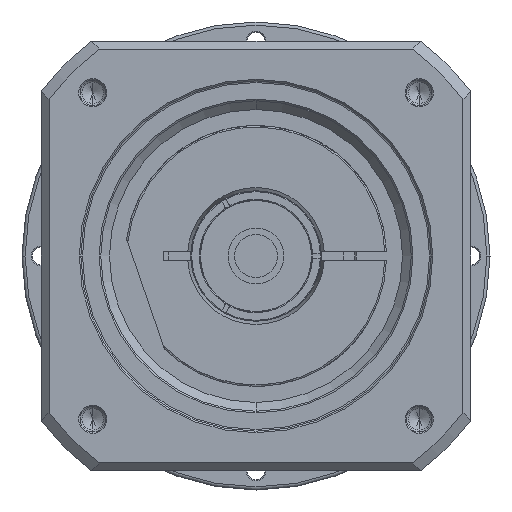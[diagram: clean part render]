
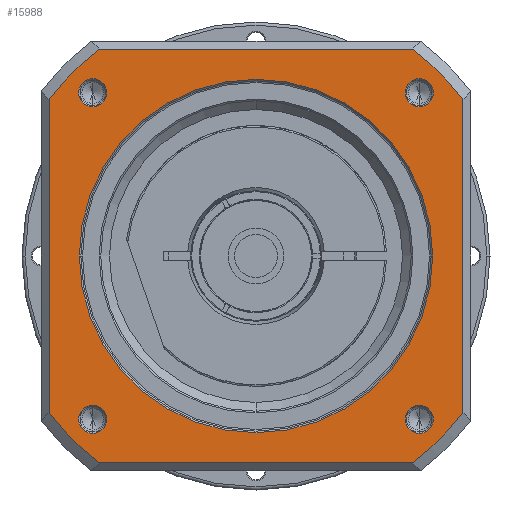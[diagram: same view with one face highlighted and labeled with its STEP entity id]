
A CAD part, left-side view. The second image highlights one B-rep face of the part: STEP entity #15988.
In plain terms, the highlighted planar face has unit normal (-1, 0, 0) as drawn and (0, 0, 1) by its records, which use the part's own axes.
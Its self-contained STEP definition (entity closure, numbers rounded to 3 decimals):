
#14728=CARTESIAN_POINT('',(0.,0.,56.));
#14729=DIRECTION('',(0.,0.,-1.));
#14730=DIRECTION('',(0.,-1.,0.));
#14731=AXIS2_PLACEMENT_3D('',#14728,#14729,#14730);
#14733=CARTESIAN_POINT('',(0.,0.,
56.));
#14734=DIRECTION('',(0.,0.,-1.));
#14735=DIRECTION('',(0.,1.,0.));
#14736=AXIS2_PLACEMENT_3D('',#14733,#14734,#14735);
#14738=DIRECTION('',(1.,0.,0.));
#14739=VECTOR('',#14738,98.331);
#14740=CARTESIAN_POINT('',(-49.166,65.,56.));
#14741=LINE('',#14740,#14739);
#14742=CARTESIAN_POINT('',(0.,0.,56.));
#14743=DIRECTION('',(0.,0.,1.));
#14744=DIRECTION('',(0.798,0.603,0.));
#14745=AXIS2_PLACEMENT_3D('',#14742,#14743,#14744);
#14747=DIRECTION('',(0.,1.,0.));
#14748=VECTOR('',#14747,98.331);
#14749=CARTESIAN_POINT('',(65.,-49.166,56.));
#14750=LINE('',#14749,#14748);
#14751=DIRECTION('',(1.,0.,0.));
#14752=VECTOR('',#14751,98.331);
#14753=CARTESIAN_POINT('',(-49.166,-65.,56.));
#14754=LINE('',#14753,#14752);
#14755=CARTESIAN_POINT('',(0.,0.,56.));
#14756=DIRECTION('',(0.,0.,1.));
#14757=DIRECTION('',(-0.798,-0.603,0.));
#14758=AXIS2_PLACEMENT_3D('',#14755,#14756,#14757);
#14760=DIRECTION('',(0.,1.,0.));
#14761=VECTOR('',#14760,98.331);
#14762=CARTESIAN_POINT('',(-65.,-49.166,56.));
#14763=LINE('',#14762,#14761);
#14778=CARTESIAN_POINT('',(0.,0.,56.));
#14779=DIRECTION('',(0.,0.,1.));
#14780=DIRECTION('',(-0.603,0.798,0.));
#14781=AXIS2_PLACEMENT_3D('',#14778,#14779,#14780);
#14788=CARTESIAN_POINT('',(0.,0.,56.));
#14789=DIRECTION('',(0.,0.,1.));
#14790=DIRECTION('',(0.603,-0.798,0.));
#14791=AXIS2_PLACEMENT_3D('',#14788,#14789,#14790);
#14805=CARTESIAN_POINT('',(-49.166,65.,56.));
#14897=CARTESIAN_POINT('',(65.,-49.166,56.));
#14925=CARTESIAN_POINT('',(49.166,-65.,56.));
#14965=CARTESIAN_POINT('',(-65.,49.166,56.));
#14974=CARTESIAN_POINT('',(-51.265,51.265,56.));
#14975=DIRECTION('',(0.,0.,1.));
#14976=DIRECTION('',(-1.,0.,0.));
#14977=AXIS2_PLACEMENT_3D('',#14974,#14975,#14976);
#14992=CARTESIAN_POINT('',(-51.265,51.265,56.));
#14993=DIRECTION('',(0.,0.,1.));
#14994=DIRECTION('',(1.,0.,0.));
#14995=AXIS2_PLACEMENT_3D('',#14992,#14993,#14994);
#15028=CARTESIAN_POINT('',(51.265,51.265,56.));
#15029=DIRECTION('',(0.,0.,1.));
#15030=DIRECTION('',(-1.,0.,0.));
#15031=AXIS2_PLACEMENT_3D('',#15028,#15029,#15030);
#15046=CARTESIAN_POINT('',(51.265,51.265,56.));
#15047=DIRECTION('',(0.,0.,1.));
#15048=DIRECTION('',(1.,0.,0.));
#15049=AXIS2_PLACEMENT_3D('',#15046,#15047,#15048);
#15082=CARTESIAN_POINT('',(51.265,-51.265,56.));
#15083=DIRECTION('',(0.,0.,1.));
#15084=DIRECTION('',(-1.,0.,0.));
#15085=AXIS2_PLACEMENT_3D('',#15082,#15083,#15084);
#15100=CARTESIAN_POINT('',(51.265,-51.265,56.));
#15101=DIRECTION('',(0.,0.,1.));
#15102=DIRECTION('',(1.,0.,0.));
#15103=AXIS2_PLACEMENT_3D('',#15100,#15101,#15102);
#15136=CARTESIAN_POINT('',(-51.265,-51.265,56.));
#15137=DIRECTION('',(0.,0.,1.));
#15138=DIRECTION('',(-1.,0.,0.));
#15139=AXIS2_PLACEMENT_3D('',#15136,#15137,#15138);
#15154=CARTESIAN_POINT('',(-51.265,-51.265,56.));
#15155=DIRECTION('',(0.,0.,1.));
#15156=DIRECTION('',(1.,0.,0.));
#15157=AXIS2_PLACEMENT_3D('',#15154,#15155,#15156);
#15319=CARTESIAN_POINT('',(-55.665,51.265,56.));
#15320=CARTESIAN_POINT('',(-46.865,51.265,56.));
#15321=VERTEX_POINT('',#15319);
#15322=VERTEX_POINT('',#15320);
#15345=CARTESIAN_POINT('',(-65.,-49.166,56.));
#15346=CARTESIAN_POINT('',(-49.166,-65.,56.));
#15347=VERTEX_POINT('',#15345);
#15348=VERTEX_POINT('',#15346);
#15349=CARTESIAN_POINT('',(65.,49.166,56.));
#15350=CARTESIAN_POINT('',(49.166,65.,56.));
#15351=VERTEX_POINT('',#15349);
#15352=VERTEX_POINT('',#15350);
#15361=VERTEX_POINT('',#14805);
#15364=VERTEX_POINT('',#14897);
#15365=VERTEX_POINT('',#14925);
#15368=VERTEX_POINT('',#14965);
#15377=CARTESIAN_POINT('',(55.665,51.265,56.));
#15378=CARTESIAN_POINT('',(46.865,51.265,56.));
#15379=VERTEX_POINT('',#15377);
#15380=VERTEX_POINT('',#15378);
#15385=CARTESIAN_POINT('',(55.665,-51.265,56.));
#15386=CARTESIAN_POINT('',(46.865,-51.265,56.));
#15387=VERTEX_POINT('',#15385);
#15388=VERTEX_POINT('',#15386);
#15393=CARTESIAN_POINT('',(-46.865,-51.265,56.));
#15394=CARTESIAN_POINT('',(-55.665,-51.265,56.));
#15395=VERTEX_POINT('',#15393);
#15396=VERTEX_POINT('',#15394);
#15401=CARTESIAN_POINT('',(0.,-55.5,56.));
#15402=CARTESIAN_POINT('',(0.,55.5,56.));
#15403=VERTEX_POINT('',#15401);
#15404=VERTEX_POINT('',#15402);
#15936=CARTESIAN_POINT('',(0.,0.,56.));
#15937=DIRECTION('',(0.,0.,1.));
#15938=DIRECTION('',(1.,0.,0.));
#15939=AXIS2_PLACEMENT_3D('',#15936,#15937,#15938);
#15940=PLANE('',#15939);
#15942=ORIENTED_EDGE('',*,*,#15941,.F.);
#15944=ORIENTED_EDGE('',*,*,#15943,.T.);
#15946=ORIENTED_EDGE('',*,*,#15945,.F.);
#15948=ORIENTED_EDGE('',*,*,#15947,.F.);
#15950=ORIENTED_EDGE('',*,*,#15949,.F.);
#15952=ORIENTED_EDGE('',*,*,#15951,.F.);
#15954=ORIENTED_EDGE('',*,*,#15953,.F.);
#15956=ORIENTED_EDGE('',*,*,#15955,.T.);
#15957=EDGE_LOOP('',(#15942,#15944,#15946,#15948,#15950,#15952,#15954,#15956));
#15958=FACE_OUTER_BOUND('',#15957,.F.);
#15959=ORIENTED_EDGE('',*,*,#15926,.F.);
#15961=ORIENTED_EDGE('',*,*,#15960,.F.);
#15962=EDGE_LOOP('',(#15959,#15961));
#15963=FACE_BOUND('',#15962,.F.);
#15965=ORIENTED_EDGE('',*,*,#15964,.T.);
#15967=ORIENTED_EDGE('',*,*,#15966,.T.);
#15968=EDGE_LOOP('',(#15965,#15967));
#15969=FACE_BOUND('',#15968,.F.);
#15971=ORIENTED_EDGE('',*,*,#15970,.T.);
#15973=ORIENTED_EDGE('',*,*,#15972,.T.);
#15974=EDGE_LOOP('',(#15971,#15973));
#15975=FACE_BOUND('',#15974,.F.);
#15977=ORIENTED_EDGE('',*,*,#15976,.T.);
#15979=ORIENTED_EDGE('',*,*,#15978,.T.);
#15980=EDGE_LOOP('',(#15977,#15979));
#15981=FACE_BOUND('',#15980,.F.);
#15983=ORIENTED_EDGE('',*,*,#15982,.T.);
#15985=ORIENTED_EDGE('',*,*,#15984,.T.);
#15986=EDGE_LOOP('',(#15983,#15985));
#15987=FACE_BOUND('',#15986,.F.);
#15988=ADVANCED_FACE('',(#15958,#15963,#15969,#15975,#15981,#15987),#15940,.T.);
#14732=CIRCLE('',#14731,55.5);
#14737=CIRCLE('',#14736,55.5);
#14746=CIRCLE('',#14745,81.5);
#14759=CIRCLE('',#14758,81.5);
#14782=CIRCLE('',#14781,81.5);
#14792=CIRCLE('',#14791,81.5);
#14978=CIRCLE('',#14977,4.4);
#14996=CIRCLE('',#14995,4.4);
#15032=CIRCLE('',#15031,4.4);
#15050=CIRCLE('',#15049,4.4);
#15086=CIRCLE('',#15085,4.4);
#15104=CIRCLE('',#15103,4.4);
#15140=CIRCLE('',#15139,4.4);
#15158=CIRCLE('',#15157,4.4);
#15926=EDGE_CURVE('',#15403,#15404,#14732,.T.);
#15941=EDGE_CURVE('',#15361,#15368,#14782,.T.);
#15943=EDGE_CURVE('',#15361,#15352,#14741,.T.);
#15945=EDGE_CURVE('',#15351,#15352,#14746,.T.);
#15947=EDGE_CURVE('',#15364,#15351,#14750,.T.);
#15949=EDGE_CURVE('',#15365,#15364,#14792,.T.);
#15951=EDGE_CURVE('',#15348,#15365,#14754,.T.);
#15953=EDGE_CURVE('',#15347,#15348,#14759,.T.);
#15955=EDGE_CURVE('',#15347,#15368,#14763,.T.);
#15960=EDGE_CURVE('',#15404,#15403,#14737,.T.);
#15964=EDGE_CURVE('',#15321,#15322,#14978,.T.);
#15966=EDGE_CURVE('',#15322,#15321,#14996,.T.);
#15970=EDGE_CURVE('',#15380,#15379,#15032,.T.);
#15972=EDGE_CURVE('',#15379,#15380,#15050,.T.);
#15976=EDGE_CURVE('',#15388,#15387,#15086,.T.);
#15978=EDGE_CURVE('',#15387,#15388,#15104,.T.);
#15982=EDGE_CURVE('',#15396,#15395,#15140,.T.);
#15984=EDGE_CURVE('',#15395,#15396,#15158,.T.);
